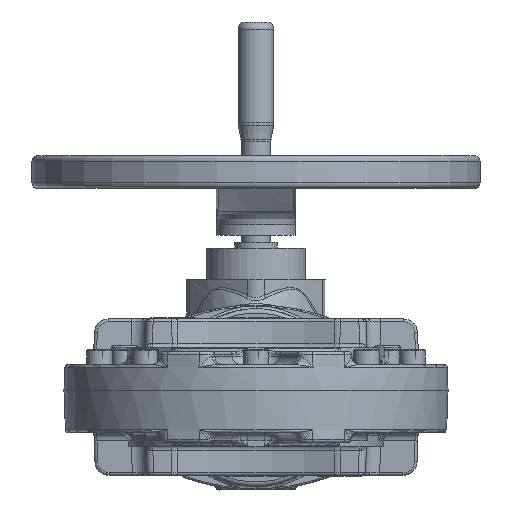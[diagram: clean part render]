
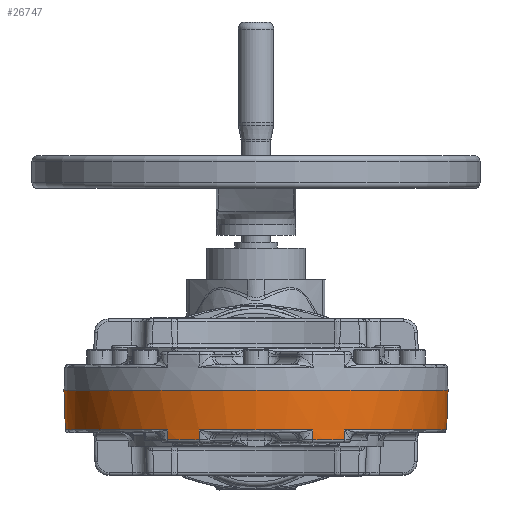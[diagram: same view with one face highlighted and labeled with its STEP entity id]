
A CAD part, front view. The second image highlights one B-rep face of the part: STEP entity #26747.
In plain terms, the highlighted conical face has half-angle 2 degrees and reference radius 135 mm.
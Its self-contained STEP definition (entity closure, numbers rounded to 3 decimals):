
#2314 = EDGE_CURVE ( 'NONE', #107985, #25379, #110597, .T. ) ;
#3864 = DIRECTION ( 'NONE',  ( 0., 0., 1. ) ) ;
#8138 = EDGE_CURVE ( 'NONE', #49925, #102000, #117673, .T. ) ;
#10075 = CARTESIAN_POINT ( 'NONE',  ( 134.02, 0., -28.07 ) ) ;
#11254 = VECTOR ( 'NONE', #20153, 1000. ) ;
#11262 = VERTEX_POINT ( 'NONE', #115174 ) ;
#14129 = DIRECTION ( 'NONE',  ( -0.035, 0., 0.999 ) ) ;
#15311 = DIRECTION ( 'NONE',  ( -0.016, -0.031, 0.999 ) ) ;
#16003 = DIRECTION ( 'NONE',  ( 0., 0., 1. ) ) ;
#20153 = DIRECTION ( 'NONE',  ( -0.01, -0.033, 0.999 ) ) ;
#21727 = CARTESIAN_POINT ( 'NONE',  ( -39.888, -127.69, -35.07 ) ) ;
#22150 = VERTEX_POINT ( 'NONE', #33072 ) ;
#24690 = VECTOR ( 'NONE', #79170, 1000. ) ;
#24746 = EDGE_CURVE ( 'NONE', #37756, #62430, #92497, .T. ) ;
#25379 = VERTEX_POINT ( 'NONE', #39545 ) ;
#26559 = DIRECTION ( 'NONE',  ( 0., 0., 1. ) ) ;
#26747 = ADVANCED_FACE ( 'NONE', ( #118874 ), #106886, .T. ) ;
#27780 = LINE ( 'NONE', #49380, #24690 ) ;
#29623 = VECTOR ( 'NONE', #73494, 1000. ) ;
#29868 = EDGE_CURVE ( 'NONE', #62430, #57810, #95489, .T. ) ;
#30310 = AXIS2_PLACEMENT_3D ( 'NONE', #41692, #41372, #40669 ) ;
#31058 = AXIS2_PLACEMENT_3D ( 'NONE', #45258, #113350, #55220 ) ;
#33072 = CARTESIAN_POINT ( 'NONE',  ( -62.086, -118.495, -35.07 ) ) ;
#33155 = CARTESIAN_POINT ( 'NONE',  ( 39.888, -127.69, -35.07 ) ) ;
#37457 = DIRECTION ( 'NONE',  ( 1., 0., 0. ) ) ;
#37575 = DIRECTION ( 'NONE',  ( 0., 0., 1. ) ) ;
#37756 = VERTEX_POINT ( 'NONE', #72489 ) ;
#38180 = CARTESIAN_POINT ( 'NONE',  ( 0., 0., -28.07 ) ) ;
#39240 = VERTEX_POINT ( 'NONE', #21727 ) ;
#39545 = CARTESIAN_POINT ( 'NONE',  ( 39.96, -127.924, -28.07 ) ) ;
#39651 = EDGE_CURVE ( 'NONE', #39240, #119964, #86893, .T. ) ;
#39730 = AXIS2_PLACEMENT_3D ( 'NONE', #63210, #3864, #73146 ) ;
#40232 = VECTOR ( 'NONE', #83274, 1000. ) ;
#40669 = DIRECTION ( 'NONE',  ( -1., 0., 0. ) ) ;
#40751 = DIRECTION ( 'NONE',  ( 1., 0., 0. ) ) ;
#40872 = DIRECTION ( 'NONE',  ( 0., 0., 1. ) ) ;
#40914 = CARTESIAN_POINT ( 'NONE',  ( 0., 0., -28.07 ) ) ;
#41372 = DIRECTION ( 'NONE',  ( 0., 0., 1. ) ) ;
#41692 = CARTESIAN_POINT ( 'NONE',  ( 0., 0., 0. ) ) ;
#43555 = CARTESIAN_POINT ( 'NONE',  ( -135., 0., 0. ) ) ;
#45258 = CARTESIAN_POINT ( 'NONE',  ( 0., 0., -35.07 ) ) ;
#47986 = AXIS2_PLACEMENT_3D ( 'NONE', #75304, #16003, #85017 ) ;
#49380 = CARTESIAN_POINT ( 'NONE',  ( 135., 0., 0. ) ) ;
#49925 = VERTEX_POINT ( 'NONE', #53513 ) ;
#50507 = LINE ( 'NONE', #84331, #76802 ) ;
#52117 = CARTESIAN_POINT ( 'NONE',  ( -39.96, -127.924, -28.07 ) ) ;
#53513 = CARTESIAN_POINT ( 'NONE',  ( -134.02, 0., -28.07 ) ) ;
#54116 = EDGE_LOOP ( 'NONE', ( #65920, #68758, #73613, #75183, #83917, #84262, #87079, #96248, #99141, #103851, #105287, #108156 ) ) ;
#55220 = DIRECTION ( 'NONE',  ( 1., 0., 0. ) ) ;
#57810 = VERTEX_POINT ( 'NONE', #10075 ) ;
#58867 = EDGE_CURVE ( 'NONE', #77846, #11262, #77907, .T. ) ;
#62430 = VERTEX_POINT ( 'NONE', #80668 ) ;
#62882 = CIRCLE ( 'NONE', #47986, 133.775 ) ;
#63210 = CARTESIAN_POINT ( 'NONE',  ( 0., 0., 0. ) ) ;
#65920 = ORIENTED_EDGE ( 'NONE', *, *, #29868, .T. ) ;
#67954 = EDGE_CURVE ( 'NONE', #49925, #77846, #117202, .T. ) ;
#68758 = ORIENTED_EDGE ( 'NONE', *, *, #104446, .T. ) ;
#69388 = CARTESIAN_POINT ( 'NONE',  ( -62.199, -118.712, -28.07 ) ) ;
#72489 = CARTESIAN_POINT ( 'NONE',  ( 62.086, -118.495, -35.07 ) ) ;
#73146 = DIRECTION ( 'NONE',  ( 1., 0., 0. ) ) ;
#73494 = DIRECTION ( 'NONE',  ( 0.01, -0.033, 0.999 ) ) ;
#73613 = ORIENTED_EDGE ( 'NONE', *, *, #58867, .F. ) ;
#74178 = CARTESIAN_POINT ( 'NONE',  ( 40.253, -128.859, 0. ) ) ;
#74309 = CIRCLE ( 'NONE', #77864, 134.02 ) ;
#75183 = ORIENTED_EDGE ( 'NONE', *, *, #67954, .F. ) ;
#75304 = CARTESIAN_POINT ( 'NONE',  ( 0., 0., -35.07 ) ) ;
#76802 = VECTOR ( 'NONE', #15311, 1000. ) ;
#77846 = VERTEX_POINT ( 'NONE', #78149 ) ;
#77864 = AXIS2_PLACEMENT_3D ( 'NONE', #85548, #26559, #95274 ) ;
#77907 = CIRCLE ( 'NONE', #39730, 135. ) ;
#78149 = CARTESIAN_POINT ( 'NONE',  ( -135., 0., 0. ) ) ;
#79170 = DIRECTION ( 'NONE',  ( 0.035, 0., 0.999 ) ) ;
#80668 = CARTESIAN_POINT ( 'NONE',  ( 62.199, -118.712, -28.07 ) ) ;
#83274 = DIRECTION ( 'NONE',  ( 0.016, -0.031, 0.999 ) ) ;
#83572 = CARTESIAN_POINT ( 'NONE',  ( 62.654, -119.58, 0. ) ) ;
#83917 = ORIENTED_EDGE ( 'NONE', *, *, #8138, .T. ) ;
#84262 = ORIENTED_EDGE ( 'NONE', *, *, #89946, .F. ) ;
#84331 = CARTESIAN_POINT ( 'NONE',  ( -62.654, -119.58, 0. ) ) ;
#85017 = DIRECTION ( 'NONE',  ( 1., 0., 0. ) ) ;
#85548 = CARTESIAN_POINT ( 'NONE',  ( 0., 0., -28.07 ) ) ;
#86893 = LINE ( 'NONE', #126035, #11254 ) ;
#87079 = ORIENTED_EDGE ( 'NONE', *, *, #92340, .T. ) ;
#88732 = AXIS2_PLACEMENT_3D ( 'NONE', #40914, #40872, #40751 ) ;
#89946 = EDGE_CURVE ( 'NONE', #22150, #102000, #50507, .T. ) ;
#90697 = EDGE_CURVE ( 'NONE', #107985, #37756, #62882, .T. ) ;
#91755 = VECTOR ( 'NONE', #14129, 1000. ) ;
#92340 = EDGE_CURVE ( 'NONE', #22150, #39240, #100295, .T. ) ;
#92497 = LINE ( 'NONE', #83572, #40232 ) ;
#95274 = DIRECTION ( 'NONE',  ( 1., 0., 0. ) ) ;
#95489 = CIRCLE ( 'NONE', #88732, 134.02 ) ;
#96248 = ORIENTED_EDGE ( 'NONE', *, *, #39651, .T. ) ;
#99141 = ORIENTED_EDGE ( 'NONE', *, *, #120367, .T. ) ;
#100295 = CIRCLE ( 'NONE', #31058, 133.775 ) ;
#102000 = VERTEX_POINT ( 'NONE', #69388 ) ;
#103851 = ORIENTED_EDGE ( 'NONE', *, *, #2314, .F. ) ;
#104446 = EDGE_CURVE ( 'NONE', #57810, #11262, #27780, .T. ) ;
#105287 = ORIENTED_EDGE ( 'NONE', *, *, #90697, .T. ) ;
#106886 = CONICAL_SURFACE ( 'NONE', #30310, 135., 0.035 ) ;
#107985 = VERTEX_POINT ( 'NONE', #33155 ) ;
#108156 = ORIENTED_EDGE ( 'NONE', *, *, #24746, .T. ) ;
#110597 = LINE ( 'NONE', #74178, #29623 ) ;
#113350 = DIRECTION ( 'NONE',  ( 0., 0., 1. ) ) ;
#115174 = CARTESIAN_POINT ( 'NONE',  ( 135., 0., 0. ) ) ;
#115246 = AXIS2_PLACEMENT_3D ( 'NONE', #38180, #37575, #37457 ) ;
#117202 = LINE ( 'NONE', #43555, #91755 ) ;
#117673 = CIRCLE ( 'NONE', #115246, 134.02 ) ;
#118874 = FACE_OUTER_BOUND ( 'NONE', #54116, .T. ) ;
#119964 = VERTEX_POINT ( 'NONE', #52117 ) ;
#120367 = EDGE_CURVE ( 'NONE', #119964, #25379, #74309, .T. ) ;
#126035 = CARTESIAN_POINT ( 'NONE',  ( -40.253, -128.859, 0. ) ) ;
